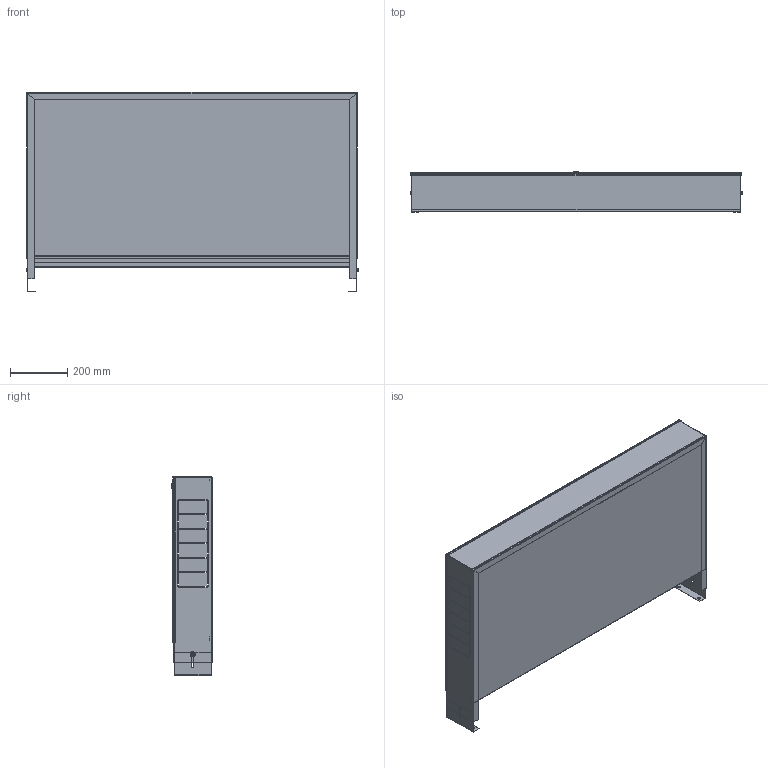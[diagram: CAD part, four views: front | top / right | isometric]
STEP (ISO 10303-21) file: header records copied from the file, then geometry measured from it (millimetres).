
FILE_DESCRIPTION(('TFLEX Exchange Step'),'2;1');
FILE_NAME('Manifold cabinet VTc.541.D.06 Valtec.stp', '2023-10-11T14:16:29+03:00',('denis'),('Unknown organisation'),'TFLEX Exchange 2023.0','T-FLEX CAD','Unknown authorisation');
FILE_SCHEMA( ('AUTOMOTIVE_DESIGN { 1 0 10303 214 1 1 1 1 }') );
Length unit declared in the file: millimetre
Products named in the file (1): Nodes
Bounding box: 1159 x 139.9 x 695 mm (x, y, z)
Volume: 1536354 mm3; surface area: 3743127.3 mm2
Topology: 9 solids, 10 shells, 504 faces, 1335 edges, 859 vertices
Faces by surface type: plane 372, cylinder 87, cone 31, bspline 12, torus 2
Full cylindrical faces by diameter (mm): 6 x4, 6.4 x2, 7 x2, 10 x5, 12 x1, 16 x1, 18 x2, 20 x2
Entity records: 18079 total; most frequent: CARTESIAN_POINT 5474, ORIENTED_EDGE 2670, DIRECTION 2391, EDGE_CURVE 1335, VECTOR 1009, LINE 1009, VERTEX_POINT 859, AXIS2_PLACEMENT_3D 691
